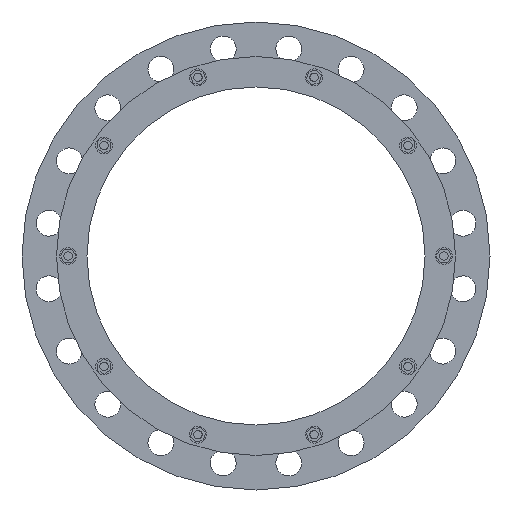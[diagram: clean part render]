
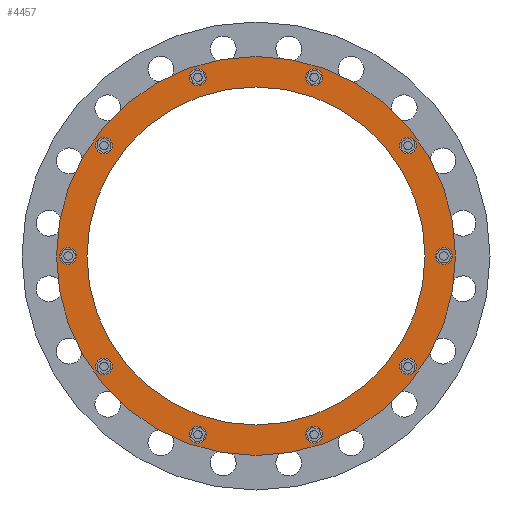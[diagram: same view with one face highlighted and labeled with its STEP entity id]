
A CAD part, front view. The second image highlights one B-rep face of the part: STEP entity #4457.
In plain terms, the highlighted planar face has unit normal (0, -1, 0).
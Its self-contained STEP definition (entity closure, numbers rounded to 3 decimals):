
#1094=CARTESIAN_POINT('',(0.,-92.452,0.));
#1095=DIRECTION('',(0.,-1.,0.));
#1096=DIRECTION('',(1.,0.,0.));
#1097=AXIS2_PLACEMENT_3D('',#1094,#1095,#1096);
#1099=CARTESIAN_POINT('',(0.,-92.452,0.));
#1100=DIRECTION('',(0.,1.,0.));
#1101=DIRECTION('',(1.,0.,0.));
#1102=AXIS2_PLACEMENT_3D('',#1099,#1100,#1101);
#1104=CARTESIAN_POINT('',(269.,-92.452,0.));
#1105=DIRECTION('',(0.,-1.,0.));
#1106=DIRECTION('',(0.,0.,-1.));
#1107=AXIS2_PLACEMENT_3D('',#1104,#1105,#1106);
#1109=CARTESIAN_POINT('',(269.,-92.452,0.));
#1110=DIRECTION('',(0.,-1.,0.));
#1111=DIRECTION('',(0.,0.,1.));
#1112=AXIS2_PLACEMENT_3D('',#1109,#1110,#1111);
#1114=CARTESIAN_POINT('',(217.626,-92.452,158.114));
#1115=DIRECTION('',(0.,-1.,0.));
#1116=DIRECTION('',(0.588,0.,-0.809));
#1117=AXIS2_PLACEMENT_3D('',#1114,#1115,#1116);
#1119=CARTESIAN_POINT('',(217.626,-92.452,158.114));
#1120=DIRECTION('',(0.,-1.,0.));
#1121=DIRECTION('',(-0.588,0.,0.809));
#1122=AXIS2_PLACEMENT_3D('',#1119,#1120,#1121);
#1124=CARTESIAN_POINT('',(83.126,-92.452,255.834));
#1125=DIRECTION('',(0.,-1.,0.));
#1126=DIRECTION('',(0.951,0.,-0.309));
#1127=AXIS2_PLACEMENT_3D('',#1124,#1125,#1126);
#1129=CARTESIAN_POINT('',(83.126,-92.452,255.834));
#1130=DIRECTION('',(0.,-1.,0.));
#1131=DIRECTION('',(-0.951,0.,0.309));
#1132=AXIS2_PLACEMENT_3D('',#1129,#1130,#1131);
#1134=CARTESIAN_POINT('',(-83.126,-92.452,255.834));
#1135=DIRECTION('',(0.,-1.,0.));
#1136=DIRECTION('',(0.951,0.,0.309));
#1137=AXIS2_PLACEMENT_3D('',#1134,#1135,#1136);
#1139=CARTESIAN_POINT('',(-83.126,-92.452,255.834));
#1140=DIRECTION('',(0.,-1.,0.));
#1141=DIRECTION('',(-0.951,0.,-0.309));
#1142=AXIS2_PLACEMENT_3D('',#1139,#1140,#1141);
#1144=CARTESIAN_POINT('',(-217.626,-92.452,158.114));
#1145=DIRECTION('',(0.,-1.,0.));
#1146=DIRECTION('',(0.588,0.,0.809));
#1147=AXIS2_PLACEMENT_3D('',#1144,#1145,#1146);
#1149=CARTESIAN_POINT('',(-217.626,-92.452,158.114));
#1150=DIRECTION('',(0.,-1.,0.));
#1151=DIRECTION('',(-0.588,0.,-0.809));
#1152=AXIS2_PLACEMENT_3D('',#1149,#1150,#1151);
#1154=CARTESIAN_POINT('',(-269.,-92.452,0.));
#1155=DIRECTION('',(0.,-1.,0.));
#1156=DIRECTION('',(0.,0.,1.));
#1157=AXIS2_PLACEMENT_3D('',#1154,#1155,#1156);
#1159=CARTESIAN_POINT('',(-269.,-92.452,0.));
#1160=DIRECTION('',(0.,-1.,0.));
#1161=DIRECTION('',(0.,0.,-1.));
#1162=AXIS2_PLACEMENT_3D('',#1159,#1160,#1161);
#1164=CARTESIAN_POINT('',(-217.626,-92.452,-158.114));
#1165=DIRECTION('',(0.,-1.,0.));
#1166=DIRECTION('',(-0.588,0.,0.809));
#1167=AXIS2_PLACEMENT_3D('',#1164,#1165,#1166);
#1169=CARTESIAN_POINT('',(-217.626,-92.452,-158.114));
#1170=DIRECTION('',(0.,-1.,0.));
#1171=DIRECTION('',(0.588,0.,-0.809));
#1172=AXIS2_PLACEMENT_3D('',#1169,#1170,#1171);
#1174=CARTESIAN_POINT('',(-83.126,-92.452,-255.834));
#1175=DIRECTION('',(0.,-1.,0.));
#1176=DIRECTION('',(-0.951,0.,0.309));
#1177=AXIS2_PLACEMENT_3D('',#1174,#1175,#1176);
#1179=CARTESIAN_POINT('',(-83.126,-92.452,-255.834));
#1180=DIRECTION('',(0.,-1.,0.));
#1181=DIRECTION('',(0.951,0.,-0.309));
#1182=AXIS2_PLACEMENT_3D('',#1179,#1180,#1181);
#1184=CARTESIAN_POINT('',(83.126,-92.452,-255.834));
#1185=DIRECTION('',(0.,-1.,0.));
#1186=DIRECTION('',(-0.951,0.,-0.309));
#1187=AXIS2_PLACEMENT_3D('',#1184,#1185,#1186);
#1189=CARTESIAN_POINT('',(83.126,-92.452,-255.834));
#1190=DIRECTION('',(0.,-1.,0.));
#1191=DIRECTION('',(0.951,0.,0.309));
#1192=AXIS2_PLACEMENT_3D('',#1189,#1190,#1191);
#1194=CARTESIAN_POINT('',(217.626,-92.452,-158.114));
#1195=DIRECTION('',(0.,-1.,0.));
#1196=DIRECTION('',(-0.588,0.,-0.809));
#1197=AXIS2_PLACEMENT_3D('',#1194,#1195,#1196);
#1199=CARTESIAN_POINT('',(217.626,-92.452,-158.114));
#1200=DIRECTION('',(0.,-1.,0.));
#1201=DIRECTION('',(0.588,0.,0.809));
#1202=AXIS2_PLACEMENT_3D('',#1199,#1200,#1201);
#1204=CARTESIAN_POINT('',(0.,-92.452,0.));
#1205=DIRECTION('',(0.,1.,0.));
#1206=DIRECTION('',(1.,0.,0.));
#1207=AXIS2_PLACEMENT_3D('',#1204,#1205,#1206);
#1217=CARTESIAN_POINT('',(0.,-92.452,0.));
#1218=DIRECTION('',(0.,-1.,0.));
#1219=DIRECTION('',(1.,0.,0.));
#1220=AXIS2_PLACEMENT_3D('',#1217,#1218,#1219);
#2955=CARTESIAN_POINT('',(285.6,-92.452,0.));
#2957=VERTEX_POINT('',#2955);
#2958=CARTESIAN_POINT('',(242.,-92.452,0.));
#2960=VERTEX_POINT('',#2958);
#2967=CARTESIAN_POINT('',(-285.6,-92.452,0.));
#2969=VERTEX_POINT('',#2967);
#2970=CARTESIAN_POINT('',(-242.,-92.452,0.));
#2972=VERTEX_POINT('',#2970);
#3009=CARTESIAN_POINT('',(269.,-92.452,-12.));
#3010=CARTESIAN_POINT('',(269.,-92.452,12.));
#3011=VERTEX_POINT('',#3009);
#3012=VERTEX_POINT('',#3010);
#3058=CARTESIAN_POINT('',(224.679,-92.452,148.406));
#3059=VERTEX_POINT('',#3058);
#3060=CARTESIAN_POINT('',(210.572,-92.452,167.822));
#3061=VERTEX_POINT('',#3060);
#3102=CARTESIAN_POINT('',(94.538,-92.452,252.126));
#3103=VERTEX_POINT('',#3102);
#3104=CARTESIAN_POINT('',(71.713,-92.452,259.542));
#3105=VERTEX_POINT('',#3104);
#3146=CARTESIAN_POINT('',(-71.713,-92.452,259.542));
#3147=VERTEX_POINT('',#3146);
#3148=CARTESIAN_POINT('',(-94.538,-92.452,252.126));
#3149=VERTEX_POINT('',#3148);
#3190=CARTESIAN_POINT('',(-210.572,-92.452,167.822));
#3191=VERTEX_POINT('',#3190);
#3192=CARTESIAN_POINT('',(-224.679,-92.452,148.406));
#3193=VERTEX_POINT('',#3192);
#3234=CARTESIAN_POINT('',(-269.,-92.452,12.));
#3235=VERTEX_POINT('',#3234);
#3236=CARTESIAN_POINT('',(-269.,-92.452,-12.));
#3237=VERTEX_POINT('',#3236);
#3278=CARTESIAN_POINT('',(-224.679,-92.452,-148.406));
#3279=VERTEX_POINT('',#3278);
#3280=CARTESIAN_POINT('',(-210.572,-92.452,-167.822));
#3281=VERTEX_POINT('',#3280);
#3322=CARTESIAN_POINT('',(-94.538,-92.452,-252.126));
#3323=VERTEX_POINT('',#3322);
#3324=CARTESIAN_POINT('',(-71.713,-92.452,-259.542));
#3325=VERTEX_POINT('',#3324);
#3537=CARTESIAN_POINT('',(71.713,-92.452,-259.542));
#3538=VERTEX_POINT('',#3537);
#3539=CARTESIAN_POINT('',(94.538,-92.452,-252.126));
#3540=VERTEX_POINT('',#3539);
#3581=CARTESIAN_POINT('',(210.572,-92.452,-167.822));
#3582=VERTEX_POINT('',#3581);
#3583=CARTESIAN_POINT('',(224.679,-92.452,-148.406));
#3584=VERTEX_POINT('',#3583);
#4382=CARTESIAN_POINT('',(0.,-92.452,0.));
#4383=DIRECTION('',(0.,1.,0.));
#4384=DIRECTION('',(-1.,0.,0.));
#4385=AXIS2_PLACEMENT_3D('',#4382,#4383,#4384);
#4386=PLANE('',#4385);
#4388=ORIENTED_EDGE('',*,*,#4387,.F.);
#4390=ORIENTED_EDGE('',*,*,#4389,.T.);
#4391=EDGE_LOOP('',(#4388,#4390));
#4392=FACE_OUTER_BOUND('',#4391,.F.);
#4394=ORIENTED_EDGE('',*,*,#4393,.F.);
#4396=ORIENTED_EDGE('',*,*,#4395,.T.);
#4397=EDGE_LOOP('',(#4394,#4396));
#4398=FACE_BOUND('',#4397,.F.);
#4400=ORIENTED_EDGE('',*,*,#4399,.T.);
#4402=ORIENTED_EDGE('',*,*,#4401,.T.);
#4403=EDGE_LOOP('',(#4400,#4402));
#4404=FACE_BOUND('',#4403,.F.);
#4406=ORIENTED_EDGE('',*,*,#4405,.T.);
#4408=ORIENTED_EDGE('',*,*,#4407,.T.);
#4409=EDGE_LOOP('',(#4406,#4408));
#4410=FACE_BOUND('',#4409,.F.);
#4412=ORIENTED_EDGE('',*,*,#4411,.T.);
#4414=ORIENTED_EDGE('',*,*,#4413,.T.);
#4415=EDGE_LOOP('',(#4412,#4414));
#4416=FACE_BOUND('',#4415,.F.);
#4418=ORIENTED_EDGE('',*,*,#4417,.T.);
#4420=ORIENTED_EDGE('',*,*,#4419,.T.);
#4421=EDGE_LOOP('',(#4418,#4420));
#4422=FACE_BOUND('',#4421,.F.);
#4424=ORIENTED_EDGE('',*,*,#4423,.T.);
#4426=ORIENTED_EDGE('',*,*,#4425,.T.);
#4427=EDGE_LOOP('',(#4424,#4426));
#4428=FACE_BOUND('',#4427,.F.);
#4430=ORIENTED_EDGE('',*,*,#4429,.T.);
#4432=ORIENTED_EDGE('',*,*,#4431,.T.);
#4433=EDGE_LOOP('',(#4430,#4432));
#4434=FACE_BOUND('',#4433,.F.);
#4436=ORIENTED_EDGE('',*,*,#4435,.T.);
#4438=ORIENTED_EDGE('',*,*,#4437,.T.);
#4439=EDGE_LOOP('',(#4436,#4438));
#4440=FACE_BOUND('',#4439,.F.);
#4442=ORIENTED_EDGE('',*,*,#4441,.T.);
#4444=ORIENTED_EDGE('',*,*,#4443,.T.);
#4445=EDGE_LOOP('',(#4442,#4444));
#4446=FACE_BOUND('',#4445,.F.);
#4447=ORIENTED_EDGE('',*,*,#4364,.T.);
#4448=ORIENTED_EDGE('',*,*,#4375,.T.);
#4449=EDGE_LOOP('',(#4447,#4448));
#4450=FACE_BOUND('',#4449,.F.);
#4452=ORIENTED_EDGE('',*,*,#4451,.T.);
#4454=ORIENTED_EDGE('',*,*,#4453,.T.);
#4455=EDGE_LOOP('',(#4452,#4454));
#4456=FACE_BOUND('',#4455,.F.);
#4457=ADVANCED_FACE('',(#4392,#4398,#4404,#4410,#4416,#4422,#4428,#4434,#4440,
#4446,#4450,#4456),#4386,.F.);
#1098=CIRCLE('',#1097,285.6);
#1103=CIRCLE('',#1102,285.6);
#1108=CIRCLE('',#1107,12.);
#1113=CIRCLE('',#1112,12.);
#1118=CIRCLE('',#1117,12.);
#1123=CIRCLE('',#1122,12.);
#1128=CIRCLE('',#1127,12.);
#1133=CIRCLE('',#1132,12.);
#1138=CIRCLE('',#1137,12.);
#1143=CIRCLE('',#1142,12.);
#1148=CIRCLE('',#1147,12.);
#1153=CIRCLE('',#1152,12.);
#1158=CIRCLE('',#1157,12.);
#1163=CIRCLE('',#1162,12.);
#1168=CIRCLE('',#1167,12.);
#1173=CIRCLE('',#1172,12.);
#1178=CIRCLE('',#1177,12.);
#1183=CIRCLE('',#1182,12.);
#1188=CIRCLE('',#1187,12.);
#1193=CIRCLE('',#1192,12.);
#1198=CIRCLE('',#1197,12.);
#1203=CIRCLE('',#1202,12.);
#1208=CIRCLE('',#1207,242.);
#1221=CIRCLE('',#1220,242.);
#4364=EDGE_CURVE('',#3538,#3540,#1188,.T.);
#4375=EDGE_CURVE('',#3540,#3538,#1193,.T.);
#4387=EDGE_CURVE('',#2957,#2969,#1098,.T.);
#4389=EDGE_CURVE('',#2957,#2969,#1103,.T.);
#4393=EDGE_CURVE('',#2960,#2972,#1208,.T.);
#4395=EDGE_CURVE('',#2960,#2972,#1221,.T.);
#4399=EDGE_CURVE('',#3011,#3012,#1108,.T.);
#4401=EDGE_CURVE('',#3012,#3011,#1113,.T.);
#4405=EDGE_CURVE('',#3059,#3061,#1118,.T.);
#4407=EDGE_CURVE('',#3061,#3059,#1123,.T.);
#4411=EDGE_CURVE('',#3103,#3105,#1128,.T.);
#4413=EDGE_CURVE('',#3105,#3103,#1133,.T.);
#4417=EDGE_CURVE('',#3147,#3149,#1138,.T.);
#4419=EDGE_CURVE('',#3149,#3147,#1143,.T.);
#4423=EDGE_CURVE('',#3191,#3193,#1148,.T.);
#4425=EDGE_CURVE('',#3193,#3191,#1153,.T.);
#4429=EDGE_CURVE('',#3235,#3237,#1158,.T.);
#4431=EDGE_CURVE('',#3237,#3235,#1163,.T.);
#4435=EDGE_CURVE('',#3279,#3281,#1168,.T.);
#4437=EDGE_CURVE('',#3281,#3279,#1173,.T.);
#4441=EDGE_CURVE('',#3323,#3325,#1178,.T.);
#4443=EDGE_CURVE('',#3325,#3323,#1183,.T.);
#4451=EDGE_CURVE('',#3582,#3584,#1198,.T.);
#4453=EDGE_CURVE('',#3584,#3582,#1203,.T.);
